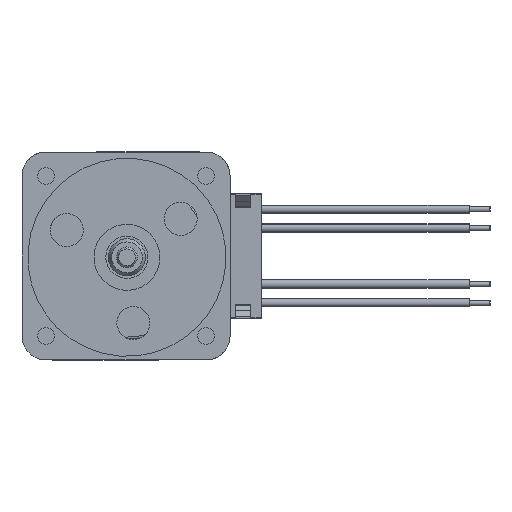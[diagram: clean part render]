
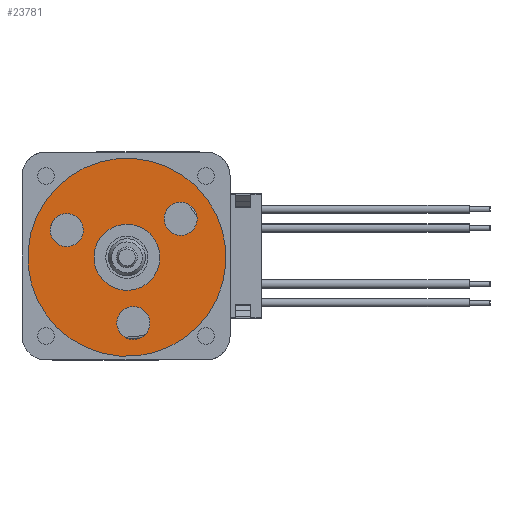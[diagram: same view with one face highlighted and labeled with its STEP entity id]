
A CAD part, left-side view. The second image highlights one B-rep face of the part: STEP entity #23781.
In plain terms, the highlighted planar face has unit normal (-1, 0, 0).
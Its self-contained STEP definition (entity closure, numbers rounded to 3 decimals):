
#23710=CARTESIAN_POINT('',(-19.04,5.459,7.615));
#23711=VERTEX_POINT('',#23710);
#23718=CARTESIAN_POINT('',(-19.04,-0.091,-0.125));
#23719=DIRECTION('',(0.,0.583,0.813));
#23720=DIRECTION('',(1.,0.,0.));
#23721=AXIS2_PLACEMENT_3D('',#23718,#23720,#23719);
#23722=CIRCLE('',#23721,9.525);
#23723=EDGE_CURVE('',#23711,#23711,#23722,.T.);
#23729=CARTESIAN_POINT('',(-19.04,-1.578,-2.2));
#23730=DIRECTION('',(0.,0.583,0.813));
#23731=DIRECTION('',(-1.,0.,0.));
#23732=AXIS2_PLACEMENT_3D('',#23729,#23731,#23730);
#23733=PLANE('',#23732);
#23734=ORIENTED_EDGE('',*,*,#23723,.F.);
#23735=EDGE_LOOP('',(#23734));
#23736=FACE_OUTER_BOUND('',#23735,.T.);
#23737=CARTESIAN_POINT('',(-19.04,-4.325,4.867));
#23738=VERTEX_POINT('',#23737);
#23739=CARTESIAN_POINT('',(-19.04,-5.252,3.575));
#23740=DIRECTION('',(0.,0.583,0.813));
#23741=DIRECTION('',(1.,0.,0.));
#23742=AXIS2_PLACEMENT_3D('',#23739,#23741,#23740);
#23743=CIRCLE('',#23742,1.59);
#23744=EDGE_CURVE('',#23738,#23738,#23743,.T.);
#23745=ORIENTED_EDGE('E1673',*,*,#23744,.T.);
#23746=EDGE_LOOP('',(#23745));
#23747=FACE_BOUND('',#23746,.T.);
#23748=CARTESIAN_POINT('',(-19.04,6.62,3.786));
#23749=VERTEX_POINT('',#23748);
#23750=CARTESIAN_POINT('',(-19.04,5.694,2.494));
#23751=DIRECTION('',(0.,0.583,0.813));
#23752=DIRECTION('',(1.,0.,0.));
#23753=AXIS2_PLACEMENT_3D('',#23750,#23752,#23751);
#23754=CIRCLE('',#23753,1.59);
#23755=EDGE_CURVE('',#23749,#23749,#23754,.T.);
#23756=ORIENTED_EDGE('E1674',*,*,#23755,.T.);
#23757=EDGE_LOOP('',(#23756));
#23758=FACE_BOUND('',#23757,.T.);
#23759=CARTESIAN_POINT('',(-19.04,0.211,-5.152));
#23760=VERTEX_POINT('',#23759);
#23761=CARTESIAN_POINT('',(-19.04,-0.715,-6.445));
#23762=DIRECTION('',(0.,0.583,0.813));
#23763=DIRECTION('',(1.,0.,0.));
#23764=AXIS2_PLACEMENT_3D('',#23761,#23763,#23762);
#23765=CIRCLE('',#23764,1.59);
#23766=EDGE_CURVE('',#23760,#23760,#23765,.T.);
#23767=ORIENTED_EDGE('E1675',*,*,#23766,.T.);
#23768=EDGE_LOOP('',(#23767));
#23769=FACE_BOUND('',#23768,.T.);
#23770=CARTESIAN_POINT('',(-19.04,1.759,2.455));
#23771=VERTEX_POINT('',#23770);
#23772=CARTESIAN_POINT('',(-19.04,-0.091,-0.125));
#23773=DIRECTION('',(0.,0.583,0.813));
#23774=DIRECTION('',(1.,0.,0.));
#23775=AXIS2_PLACEMENT_3D('',#23772,#23774,#23773);
#23776=CIRCLE('',#23775,3.175);
#23777=EDGE_CURVE('',#23771,#23771,#23776,.T.);
#23778=ORIENTED_EDGE('E1676',*,*,#23777,.T.);
#23779=EDGE_LOOP('',(#23778));
#23780=FACE_BOUND('',#23779,.T.);
#23781=ADVANCED_FACE('F582',(#23736,#23747,#23758,#23769,#23780),#23733,.T.);
